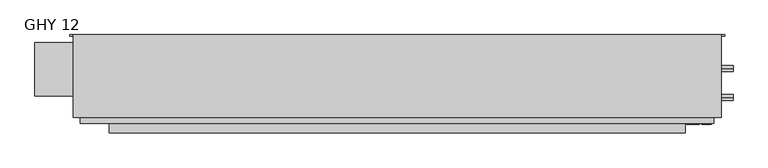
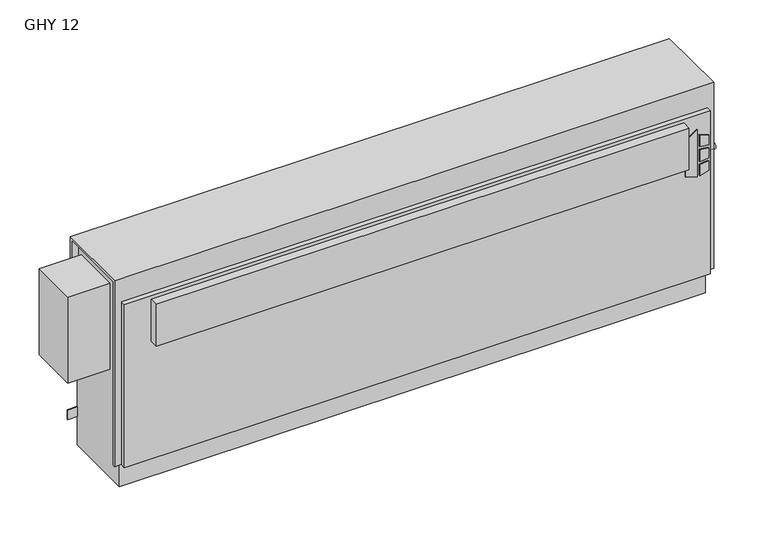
"""IFC4 building model written with IfcOpenShell, lengths in millimetres: proxy geometry, Vertical_Fan_Coil_Unit_-_GHY_-_IEC_-_2-Pipe_FS-FR_RH_2022 : GHY 12."""

from ifc_helpers import new_model, si_unit, point, frame, frame_2d, origin, place, context, project, spatial, polyline, circle_curve, trimmed, segment, composite_curve, outline, extrude, source, transform, mapped, element, save
from ifc_brep_helpers import plane_surface, revolved_surface, advanced_brep


def ghy_12_c026222b(model_context):
    return source(origin(), model_context, "Body", "SolidModel", [
        extrude(outline(polyline([(391.6086829, 919.2368862), (381.6606126, 951.4102728), (523.831537, 951.4102728), (500.8095309, 919.2368862), (391.6086829, 919.2368862)])), frame((0.0, 6.35, 0.0), z_axis=(0.0, 1.0, 0.0), x_axis=(0.0, 0.0, 1.0)), (0.0, 0.0, 1.0), 3.175),
        extrude(outline(polyline([(470.6079683, 958.1686058), (467.4055757, 984.25), (496.6344168, 984.25), (504.6988318, 958.1686058), (470.6079683, 958.1686058)])), frame((0.0, 6.35, 0.0), z_axis=(0.0, 1.0, 0.0), x_axis=(0.0, 0.0, 1.0)), (0.0, 0.0, 1.0), 3.175),
        extrude(outline(polyline([(418.7444414, 984.25), (415.0789404, 958.1686058), (381.6606126, 958.1686058), (390.2948498, 984.25), (418.7444414, 984.25)])), frame((0.0, 6.35, 0.0), z_axis=(0.0, 1.0, 0.0), x_axis=(0.0, 0.0, 1.0)), (0.0, 0.0, 1.0), 3.175),
        extrude(outline(polyline([(458.0596028, 984.25), (460.3414292, 958.1686058), (424.4038806, 958.1686058), (427.1451456, 984.25), (458.0596028, 984.25)])), frame((0.0, 6.35, 0.0), z_axis=(0.0, 1.0, 0.0), x_axis=(0.0, 0.0, 1.0)), (0.0, 0.0, 1.0), 3.175),
        extrude(outline(polyline([(914.4, -15.875), (-609.6, -15.875), (-609.6, 9.525), (914.4, 9.525), (914.4, -15.875)])), frame((0.0, 0.0, 428.625), z_axis=(0.0, 0.0, 1.0), x_axis=(1.0, 0.0, 0.0)), (0.0, 0.0, 1.0), 127.0),
        extrude(outline(composite_curve([segment(trimmed(circle_curve(frame_2d((77.597, 401.574)), 7.9375), [point((77.597, 393.6365))], [point((77.597, 409.5115))], False, "CARTESIAN"), True, "CONTINUOUS"), segment(trimmed(circle_curve(frame_2d((77.597, 401.574)), 7.9375), [point((77.597, 409.5115))], [point((77.597, 393.6365))], False, "CARTESIAN"), True, "CONTINUOUS")], self_intersect=False)), frame((990.6, 0.0, 0.0), z_axis=(1.0, 0.0, 0.0), x_axis=(0.0, 1.0, 0.0)), (0.0, 0.0, 1.0), 50.8),
        extrude(outline(composite_curve([segment(trimmed(circle_curve(frame_2d((154.559, 540.512)), 7.9375), [point((154.559, 532.5745))], [point((154.559, 548.4495))], False, "CARTESIAN"), True, "CONTINUOUS"), segment(trimmed(circle_curve(frame_2d((154.559, 540.512)), 7.9375), [point((154.559, 548.4495))], [point((154.559, 532.5745))], False, "CARTESIAN"), True, "CONTINUOUS")], self_intersect=False)), frame((990.6, 0.0, 0.0), z_axis=(1.0, 0.0, 0.0), x_axis=(0.0, 1.0, 0.0)), (0.0, 0.0, 1.0), 50.8),
        extrude(outline(polyline([(-806.45, 223.266), (-685.8, 223.266), (-685.8, 81.534), (-806.45, 81.534), (-806.45, 223.266)])), frame((0.0, 0.0, 327.025), z_axis=(0.0, 0.0, 1.0), x_axis=(1.0, 0.0, 0.0)), (0.0, 0.0, 1.0), 260.35),
        advanced_brep(
        [(1009.65, 244.475, 635.0), (-704.85, 244.475, 635.0), (-704.85, 25.4, 635.0), (1009.65, 25.4, 635.0), (-685.8, 244.475, 0.0), (990.6, 244.475, 0.0), (990.6, 34.925, 0.0), (-685.8, 34.925, 0.0), (1009.65, 244.475, 558.8), (990.6, 244.475, 558.8), (990.6, 244.475, 414.3375), (1019.175, 244.475, 414.3375), (1019.175, 244.475, 385.7625), (990.6, 244.475, 385.7625), (990.6, 244.475, 287.3375), (1019.175, 244.475, 287.3375), (1019.175, 244.475, 258.7625), (990.6, 244.475, 258.7625), (990.6, 244.475, 141.2875), (1019.175, 244.475, 141.2875), (1019.175, 244.475, 112.7125), (990.6, 244.475, 112.7125), (-685.8, 244.475, 87.3125), (-714.375, 244.475, 87.3125), (-714.375, 244.475, 115.8875), (-685.8, 244.475, 115.8875), (-685.8, 244.475, 258.7625), (-714.375, 244.475, 258.7625), (-714.375, 244.475, 287.3375), (-685.8, 244.475, 287.3375), (-685.8, 244.475, 385.7625), (-714.375, 244.475, 385.7625), (-714.375, 244.475, 414.3375), (-685.8, 244.475, 414.3375), (-685.8, 244.475, 558.8), (-704.85, 244.475, 558.8), (1008.8626, 244.475, 127.0), (997.7374, 244.475, 127.0), (1008.8626, 244.475, 273.05), (997.7374, 244.475, 273.05), (-692.9374, 244.475, 273.05), (-704.0626, 244.475, 273.05), (1008.8626, 244.475, 400.05), (997.7374, 244.475, 400.05), (-692.9374, 244.475, 400.05), (-704.0626, 244.475, 400.05), (-704.85, 238.125, 558.8), (-704.85, 238.125, 628.65), (-704.85, 31.75, 628.65), (-704.85, 31.75, 73.025), (-704.85, 25.4, 73.025), (990.6, 9.525, 565.15), (-685.8, 9.525, 565.15), (-685.8, 9.525, 73.025), (990.6, 9.525, 73.025), (1009.65, 25.4, 73.025), (1009.65, 31.75, 73.025), (1009.65, 31.75, 628.65), (1009.65, 238.125, 628.65), (1009.65, 238.125, 558.8), (-685.8, 25.4, 73.025), (-685.8, 25.4, 565.15), (990.6, 25.4, 565.15), (990.6, 25.4, 73.025), (-685.8, 31.75, 73.025), (-685.8, 34.925, 73.025), (990.6, 34.925, 73.025), (990.6, 31.75, 73.025), (990.6, 241.3, 112.7125), (990.6, 241.3, 141.2875), (990.6, 241.3, 258.7625), (990.6, 241.3, 287.3375), (990.6, 241.3, 385.7625), (990.6, 241.3, 414.3375), (990.6, 238.125, 558.8), (990.6, 238.125, 628.65), (990.6, 31.75, 628.65), (-685.8, 31.75, 628.65), (-685.8, 238.125, 628.65), (-685.8, 238.125, 558.8), (-685.8, 241.3, 414.3375), (-685.8, 241.3, 385.7625), (-685.8, 241.3, 287.3375), (-685.8, 241.3, 258.7625), (-685.8, 241.3, 115.8875), (-685.8, 241.3, 87.3125), (1019.175, 241.3, 112.7125), (1019.175, 241.3, 141.2875), (997.7374, 241.3, 127.0), (1008.8626, 241.3, 127.0), (1019.175, 241.3, 258.7625), (1019.175, 241.3, 287.3375), (997.7374, 241.3, 273.05), (1008.8626, 241.3, 273.05), (1019.175, 241.3, 385.7625), (1019.175, 241.3, 414.3375), (997.7374, 241.3, 400.05), (1008.8626, 241.3, 400.05), (-714.375, 241.3, 115.8875), (-714.375, 241.3, 87.3125), (-714.375, 241.3, 287.3375), (-714.375, 241.3, 258.7625), (-704.0626, 241.3, 273.05), (-692.9374, 241.3, 273.05), (-714.375, 241.3, 414.3375), (-714.375, 241.3, 385.7625), (-704.0626, 241.3, 400.05), (-692.9374, 241.3, 400.05)],
        [
            (0, 1),
            (1, 2),
            (2, 3),
            (3, 0),
            (4, 5),
            (5, 6),
            (6, 7),
            (7, 4),
            (0, 8),
            (8, 9),
            (9, 10),
            (10, 11),
            (11, 12),
            (12, 13),
            (13, 14),
            (14, 15),
            (15, 16),
            (16, 17),
            (17, 18),
            (18, 19),
            (19, 20),
            (20, 21),
            (21, 5),
            (4, 22),
            (22, 23),
            (23, 24),
            (24, 25),
            (25, 26),
            (26, 27),
            (27, 28),
            (28, 29),
            (29, 30),
            (30, 31),
            (31, 32),
            (32, 33),
            (33, 34),
            (34, 35),
            (35, 1),
            (36, 37, circle_curve(frame((1003.3, 244.475, 127.0), z_axis=(0.0, -1.0, 0.0), x_axis=(-1.0, 0.0, 0.0)), 5.5626)),
            (37, 36, circle_curve(frame((1003.3, 244.475, 127.0), z_axis=(0.0, -1.0, 0.0), x_axis=(-1.0, 0.0, 0.0)), 5.5626)),
            (38, 39, circle_curve(frame((1003.3, 244.475, 273.05), z_axis=(0.0, -1.0, 0.0), x_axis=(-1.0, 0.0, 0.0)), 5.5626)),
            (39, 38, circle_curve(frame((1003.3, 244.475, 273.05), z_axis=(0.0, -1.0, 0.0), x_axis=(-1.0, 0.0, 0.0)), 5.5626)),
            (40, 41, circle_curve(frame((-698.5, 244.475, 273.05), z_axis=(0.0, -1.0, 0.0), x_axis=(-1.0, 0.0, 0.0)), 5.5626)),
            (41, 40, circle_curve(frame((-698.5, 244.475, 273.05), z_axis=(0.0, -1.0, 0.0), x_axis=(-1.0, 0.0, 0.0)), 5.5626)),
            (42, 43, circle_curve(frame((1003.3, 244.475, 400.05), z_axis=(0.0, -1.0, 0.0), x_axis=(-1.0, 0.0, 0.0)), 5.5626)),
            (43, 42, circle_curve(frame((1003.3, 244.475, 400.05), z_axis=(0.0, -1.0, 0.0), x_axis=(-1.0, 0.0, 0.0)), 5.5626)),
            (44, 45, circle_curve(frame((-698.5, 244.475, 400.05), z_axis=(0.0, -1.0, 0.0), x_axis=(-1.0, 0.0, 0.0)), 5.5626)),
            (45, 44, circle_curve(frame((-698.5, 244.475, 400.05), z_axis=(0.0, -1.0, 0.0), x_axis=(-1.0, 0.0, 0.0)), 5.5626)),
            (35, 46),
            (46, 47),
            (47, 48),
            (48, 49),
            (49, 50),
            (50, 2),
            (51, 52),
            (52, 53),
            (53, 54),
            (54, 51),
            (3, 55),
            (55, 56),
            (56, 57),
            (57, 58),
            (58, 59),
            (59, 8),
            (50, 60),
            (60, 61),
            (61, 62),
            (62, 63),
            (63, 55),
            (51, 62),
            (61, 52),
            (53, 60),
            (49, 64),
            (64, 65),
            (65, 66),
            (66, 67),
            (67, 56),
            (63, 54),
            (6, 66),
            (65, 7),
            (21, 68),
            (68, 69),
            (69, 18),
            (17, 70),
            (70, 71),
            (71, 14),
            (13, 72),
            (72, 73),
            (73, 10),
            (9, 74),
            (74, 75),
            (75, 76),
            (76, 67),
            (64, 77),
            (77, 78),
            (78, 79),
            (79, 34),
            (33, 80),
            (80, 81),
            (81, 30),
            (29, 82),
            (82, 83),
            (83, 26),
            (25, 84),
            (84, 85),
            (85, 22),
            (74, 59),
            (58, 75),
            (76, 57),
            (48, 77),
            (79, 46),
            (78, 47),
            (68, 86),
            (86, 87),
            (87, 69),
            (88, 89, circle_curve(frame((1003.3, 241.3, 127.0), z_axis=(0.0, 1.0, 0.0), x_axis=(-1.0, 0.0, 0.0)), 5.5626)),
            (89, 88, circle_curve(frame((1003.3, 241.3, 127.0), z_axis=(0.0, 1.0, 0.0), x_axis=(-1.0, 0.0, 0.0)), 5.5626)),
            (90, 91),
            (91, 71),
            (70, 90),
            (92, 93, circle_curve(frame((1003.3, 241.3, 273.05), z_axis=(0.0, 1.0, 0.0), x_axis=(-1.0, 0.0, 0.0)), 5.5626)),
            (93, 92, circle_curve(frame((1003.3, 241.3, 273.05), z_axis=(0.0, 1.0, 0.0), x_axis=(-1.0, 0.0, 0.0)), 5.5626)),
            (94, 95),
            (95, 73),
            (72, 94),
            (96, 97, circle_curve(frame((1003.3, 241.3, 400.05), z_axis=(0.0, 1.0, 0.0), x_axis=(-1.0, 0.0, 0.0)), 5.5626)),
            (97, 96, circle_curve(frame((1003.3, 241.3, 400.05), z_axis=(0.0, 1.0, 0.0), x_axis=(-1.0, 0.0, 0.0)), 5.5626)),
            (98, 99),
            (99, 85),
            (84, 98),
            (82, 100),
            (100, 101),
            (101, 83),
            (102, 103, circle_curve(frame((-698.5, 241.3, 273.05), z_axis=(0.0, 1.0, 0.0), x_axis=(-1.0, 0.0, 0.0)), 5.5626)),
            (103, 102, circle_curve(frame((-698.5, 241.3, 273.05), z_axis=(0.0, 1.0, 0.0), x_axis=(-1.0, 0.0, 0.0)), 5.5626)),
            (104, 105),
            (105, 81),
            (80, 104),
            (106, 107, circle_curve(frame((-698.5, 241.3, 400.05), z_axis=(0.0, 1.0, 0.0), x_axis=(-1.0, 0.0, 0.0)), 5.5626)),
            (107, 106, circle_curve(frame((-698.5, 241.3, 400.05), z_axis=(0.0, 1.0, 0.0), x_axis=(-1.0, 0.0, 0.0)), 5.5626)),
            (87, 19),
            (86, 20),
            (16, 90),
            (91, 15),
            (12, 94),
            (95, 11),
            (24, 98),
            (99, 23),
            (101, 27),
            (100, 28),
            (32, 104),
            (105, 31),
            (88, 37),
            (36, 89),
            (92, 39),
            (38, 93),
            (102, 41),
            (40, 103),
            (96, 43),
            (42, 97),
            (106, 45),
            (44, 107),
        ],
        [
            plane_surface(frame((-704.85, 244.475, 635.0), z_axis=(0.0, 0.0, 1.0), x_axis=(-1.0, 0.0, 0.0))),
            plane_surface(frame((-704.85, 244.475, 0.0), z_axis=(0.0, 0.0, -1.0), x_axis=(1.0, 0.0, 0.0))),
            plane_surface(frame((1009.65, 244.475, 635.0), z_axis=(0.0, 1.0, 0.0), x_axis=(0.0, 0.0, -1.0))),
            plane_surface(frame((-704.85, 244.475, 635.0), z_axis=(-1.0, 0.0, 0.0), x_axis=(0.0, 0.0, -1.0))),
            plane_surface(frame((-704.85, 9.525, 635.0), z_axis=(0.0, -1.0, 0.0), x_axis=(0.0, 0.0, -1.0))),
            plane_surface(frame((1009.65, 9.525, 635.0), z_axis=(1.0, 0.0, 0.0), x_axis=(0.0, 0.0, -1.0))),
            plane_surface(frame((-1263.65, 25.4, 635.0), z_axis=(0.0, -1.0, 0.0), x_axis=(1.0, 0.0, 0.0))),
            plane_surface(frame((-1263.65, 25.4, 565.15), z_axis=(0.0, 0.0, 1.0), x_axis=(1.0, 0.0, 0.0))),
            plane_surface(frame((-704.85, 9.525, 73.025), z_axis=(0.0, 0.0, -1.0), x_axis=(1.0, 0.0, 0.0))),
            plane_surface(frame((-704.85, 34.925, 73.025), z_axis=(0.0, -1.0, 0.0), x_axis=(1.0, 0.0, 0.0))),
            plane_surface(frame((990.6, 25.4, 73.025), z_axis=(1.0, 0.0, 0.0), x_axis=(0.0, -1.0, 0.0))),
            plane_surface(frame((-685.8, 25.4, 565.15), z_axis=(-1.0, 0.0, 0.0), x_axis=(0.0, -1.0, 0.0))),
            plane_surface(frame((990.6, 244.475, 0.0), z_axis=(1.0, 0.0, 0.0), x_axis=(0.0, -1.0, 0.0))),
            plane_surface(frame((-685.8, 244.475, 73.025), z_axis=(-1.0, 0.0, 0.0), x_axis=(0.0, -1.0, 0.0))),
            plane_surface(frame((990.6, 238.125, 628.65), z_axis=(0.0, -1.0, 0.0), x_axis=(1.0, 0.0, 0.0))),
            plane_surface(frame((990.6, 238.125, 558.8), z_axis=(0.0, 0.0, -1.0), x_axis=(1.0, 0.0, 0.0))),
            plane_surface(frame((990.6, 31.75, 73.025), z_axis=(0.0, 1.0, 0.0), x_axis=(1.0, 0.0, 0.0))),
            plane_surface(frame((990.6, 31.75, 628.65), z_axis=(0.0, 0.0, -1.0), x_axis=(1.0, 0.0, 0.0))),
            plane_surface(frame((-685.8, 31.75, 628.65), z_axis=(0.0, 1.0, 0.0), x_axis=(-1.0, 0.0, 0.0))),
            plane_surface(frame((-685.8, 244.475, 558.8), z_axis=(0.0, 0.0, -1.0), x_axis=(-1.0, 0.0, 0.0))),
            plane_surface(frame((-685.8, 238.125, 558.8), z_axis=(0.0, -1.0, 0.0), x_axis=(-1.0, 0.0, 0.0))),
            plane_surface(frame((-685.8, 238.125, 628.65), z_axis=(0.0, 0.0, -1.0), x_axis=(-1.0, 0.0, 0.0))),
            plane_surface(frame((1019.175, 241.3, 141.2875), z_axis=(0.0, -1.0, 0.0), x_axis=(-1.0, 0.0, 0.0))),
            plane_surface(frame((990.6, 244.475, 141.2875), z_axis=(0.0, 0.0, 1.0), x_axis=(0.0, -1.0, 0.0))),
            plane_surface(frame((1019.175, 244.475, 141.2875), z_axis=(1.0, 0.0, 0.0), x_axis=(0.0, -1.0, 0.0))),
            plane_surface(frame((1019.175, 244.475, 112.7125), z_axis=(0.0, 0.0, -1.0), x_axis=(0.0, -1.0, 0.0))),
            plane_surface(frame((1019.175, 244.475, 258.7625), z_axis=(0.0, 0.0, -1.0), x_axis=(0.0, -1.0, 0.0))),
            plane_surface(frame((990.6, 244.475, 287.3375), z_axis=(0.0, 0.0, 1.0), x_axis=(0.0, -1.0, 0.0))),
            plane_surface(frame((1019.175, 244.475, 287.3375), z_axis=(1.0, 0.0, 0.0), x_axis=(0.0, -1.0, 0.0))),
            plane_surface(frame((1019.175, 244.475, 385.7625), z_axis=(0.0, 0.0, -1.0), x_axis=(0.0, -1.0, 0.0))),
            plane_surface(frame((990.6, 244.475, 414.3375), z_axis=(0.0, 0.0, 1.0), x_axis=(0.0, -1.0, 0.0))),
            plane_surface(frame((1019.175, 244.475, 414.3375), z_axis=(1.0, 0.0, 0.0), x_axis=(0.0, -1.0, 0.0))),
            plane_surface(frame((-714.375, 244.475, 115.8875), z_axis=(0.0, 0.0, 1.0), x_axis=(0.0, -1.0, 0.0))),
            plane_surface(frame((-685.8, 244.475, 87.3125), z_axis=(0.0, 0.0, -1.0), x_axis=(0.0, -1.0, 0.0))),
            plane_surface(frame((-714.375, 244.475, 87.3125), z_axis=(-1.0, 0.0, 0.0), x_axis=(0.0, -1.0, 0.0))),
            plane_surface(frame((-685.8, 244.475, 258.7625), z_axis=(0.0, 0.0, -1.0), x_axis=(0.0, -1.0, 0.0))),
            plane_surface(frame((-714.375, 244.475, 258.7625), z_axis=(-1.0, 0.0, 0.0), x_axis=(0.0, -1.0, 0.0))),
            plane_surface(frame((-714.375, 244.475, 287.3375), z_axis=(0.0, 0.0, 1.0), x_axis=(0.0, -1.0, 0.0))),
            plane_surface(frame((-714.375, 244.475, 414.3375), z_axis=(0.0, 0.0, 1.0), x_axis=(0.0, -1.0, 0.0))),
            plane_surface(frame((-685.8, 244.475, 385.7625), z_axis=(0.0, 0.0, -1.0), x_axis=(0.0, -1.0, 0.0))),
            plane_surface(frame((-714.375, 244.475, 385.7625), z_axis=(-1.0, 0.0, 0.0), x_axis=(0.0, -1.0, 0.0))),
            revolved_surface(polyline([(997.7374, 241.3, 127.0), (997.7374, 244.475, 127.0)]), (1003.3, 244.475, 127.0), (0.0, -1.0, 0.0)),
            revolved_surface(polyline([(997.7374, 241.3, 273.05), (997.7374, 244.475, 273.05)]), (1003.3, 244.475, 273.05), (0.0, -1.0, 0.0)),
            revolved_surface(polyline([(-704.0626, 241.3, 273.05), (-704.0626, 244.475, 273.05)]), (-698.5, 244.475, 273.05), (0.0, -1.0, 0.0)),
            revolved_surface(polyline([(997.7374, 241.3, 400.05), (997.7374, 244.475, 400.05)]), (1003.3, 244.475, 400.05), (0.0, -1.0, 0.0)),
            revolved_surface(polyline([(-704.0626, 241.3, 400.05), (-704.0626, 244.475, 400.05)]), (-698.5, 244.475, 400.05), (0.0, -1.0, 0.0)),
        ],
        [
            (0, [[1, 2, 3, 4]]),
            (1, [[5, 6, 7, 8]]),
            (2, [[-1, 9, 10, 11, 12, 13, 14, 15, 16, 17, 18, 19, 20, 21, 22, 23, -5, 24, 25, 26, 27, 28, 29, 30, 31, 32, 33, 34, 35, 36, 37, 38], [39, 40], [41, 42], [43, 44], [45, 46], [47, 48]]),
            (3, [[-2, -38, 49, 50, 51, 52, 53, 54]]),
            (4, [[55, 56, 57, 58]]),
            (5, [[-4, 59, 60, 61, 62, 63, 64, -9]]),
            (6, [[-3, -54, 65, 66, 67, 68, 69, -59]]),
            (7, [[-55, 70, -67, 71]]),
            (8, [[-57, 72, -65, -53, 73, 74, 75, 76, 77, -60, -69, 78]]),
            (9, [[-7, 79, -75, 80]]),
            (10, [[-68, -70, -58, -78]]),
            (11, [[-66, -72, -56, -71]]),
            (12, [[-6, -23, 81, 82, 83, -19, 84, 85, 86, -15, 87, 88, 89, -11, 90, 91, 92, 93, -76, -79]]),
            (13, [[-8, -80, -74, 94, 95, 96, 97, -36, 98, 99, 100, -32, 101, 102, 103, -28, 104, 105, 106, -24]]),
            (14, [[-91, 107, -63, 108]]),
            (15, [[-90, -10, -64, -107]]),
            (16, [[-93, 109, -61, -77]]),
            (17, [[-92, -108, -62, -109]]),
            (18, [[-94, -73, -52, 110]]),
            (19, [[-97, 111, -49, -37]]),
            (20, [[-96, 112, -50, -111]]),
            (21, [[-95, -110, -51, -112]]),
            (22, [[113, 114, 115, -82], [116, 117]]),
            (22, [[118, 119, -85, 120], [121, 122]]),
            (22, [[123, 124, -88, 125], [126, 127]]),
            (22, [[128, 129, -105, 130]]),
            (22, [[131, 132, 133, -102], [134, 135]]),
            (22, [[136, 137, -99, 138], [139, 140]]),
            (23, [[-115, 141, -20, -83]]),
            (24, [[-114, 142, -21, -141]]),
            (25, [[-113, -81, -22, -142]]),
            (26, [[-120, -84, -18, 143]]),
            (27, [[-119, 144, -16, -86]]),
            (28, [[-118, -143, -17, -144]]),
            (29, [[-125, -87, -14, 145]]),
            (30, [[-124, 146, -12, -89]]),
            (31, [[-123, -145, -13, -146]]),
            (32, [[-130, -104, -27, 147]]),
            (33, [[-129, 148, -25, -106]]),
            (34, [[-128, -147, -26, -148]]),
            (35, [[-133, 149, -29, -103]]),
            (36, [[-132, 150, -30, -149]]),
            (37, [[-131, -101, -31, -150]]),
            (38, [[-138, -98, -35, 151]]),
            (39, [[-137, 152, -33, -100]]),
            (40, [[-136, -151, -34, -152]]),
            (41, [[153, -39, 154, -116]]),
            (41, [[-153, -117, -154, -40]]),
            (42, [[155, -41, 156, -121]]),
            (42, [[-155, -122, -156, -42]]),
            (43, [[157, -43, 158, -134]]),
            (43, [[-157, -135, -158, -44]]),
            (44, [[159, -45, 160, -126]]),
            (44, [[-159, -127, -160, -46]]),
            (45, [[161, -47, 162, -139]]),
            (45, [[-161, -140, -162, -48]]),
        ],
    ),
    ])


if __name__ == "__main__":
    model = new_model("IFC4")
    model_context = context("Model", 3, world=origin())
    ifc_project = project(units=[si_unit("LENGTHUNIT", "METRE", prefix="MILLI")], contexts=[model_context])
    site = spatial("IfcSite", under=ifc_project)
    building = spatial("IfcBuilding", under=site)
    placement = place(None, origin())
    ghy_12_shape = ghy_12_c026222b(model_context)
    element("IfcBuildingElementProxy", 1, Name="Vertical_Fan_Coil_Unit_-_GHY_-_IEC_-_2-Pipe_FS-FR_RH_2022 : GHY 12", ObjectType="Vertical_Fan_Coil_Unit_-_GHY_-_IEC_-_2-Pipe_FS-FR_RH_2022 : GHY 12", at=placement, inside=building, context=model_context, shape_type="MappedRepresentation", body=[
        mapped(ghy_12_shape, transform((0.0, 0.0, 0.0), x_axis=(1.0, 0.0, 0.0), y_axis=(0.0, 1.0, 0.0), z_axis=(0.0, 0.0, 1.0))),
    ])
    save(model, "model.ifc")
